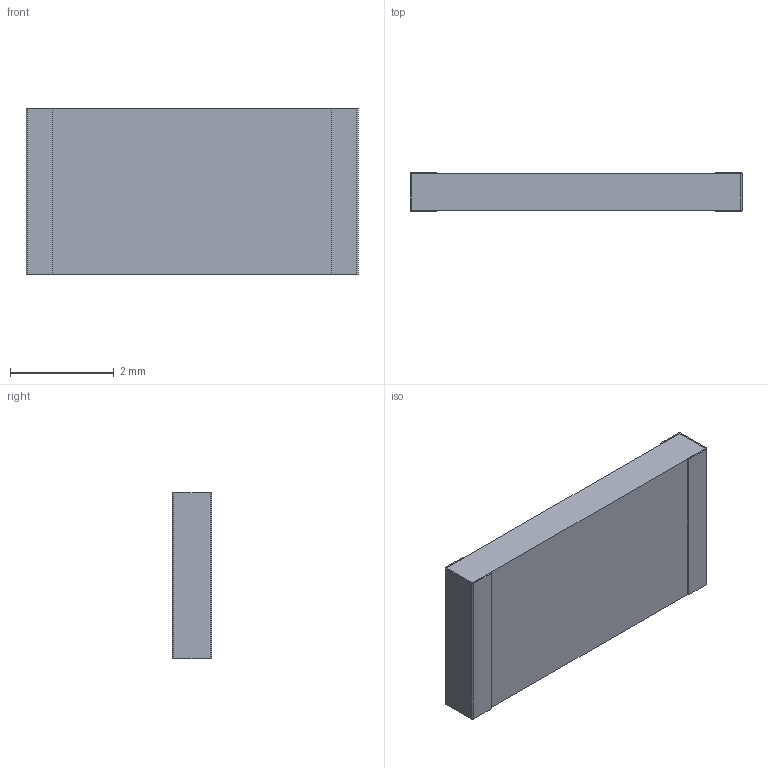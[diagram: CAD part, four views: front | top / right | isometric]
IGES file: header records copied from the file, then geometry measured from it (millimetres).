
Global section: file name: THJP2512A; native system: Autodesk Inventor LT ; preprocessor: unknown; author: Neil; date: 20191203.161942; units: inch
Bounding box: 6.4 x 0.76 x 3.2 mm (x, y, z)
Volume: 14.7 mm3; surface area: 76.7 mm2
Topology: 3 solids, 3 shells, 30 faces, 72 edges, 48 vertices
Faces by surface type: bspline 30
